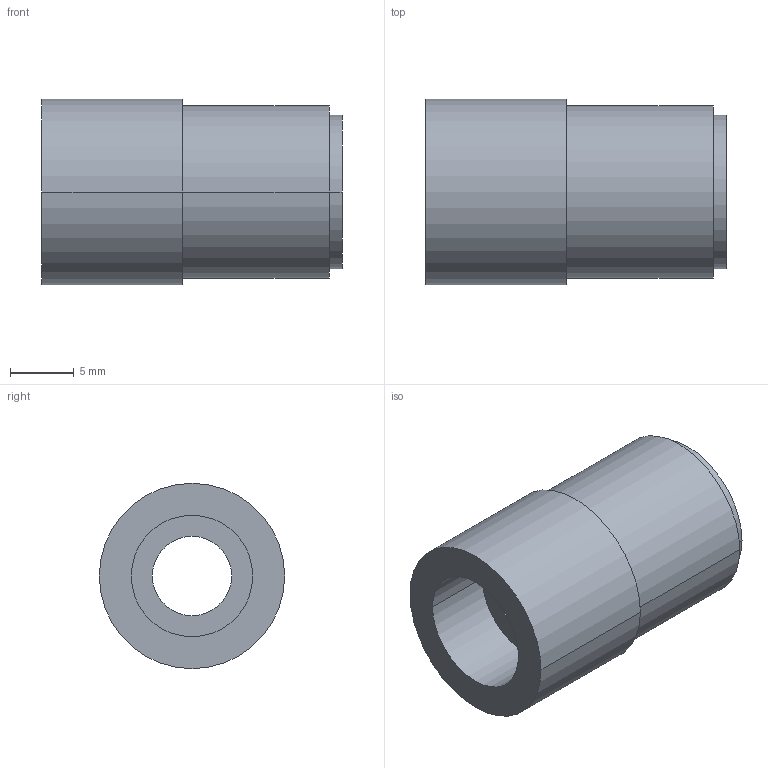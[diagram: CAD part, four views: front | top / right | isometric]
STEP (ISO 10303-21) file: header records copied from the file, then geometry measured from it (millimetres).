
FILE_DESCRIPTION(('Creo Elements/Direct Modeling STEP Export'),'2;1');
FILE_NAME('H06-0036-CL907_G11-09.stp','2012-02-15T14:43:50',(''),(''),'Creo Elements/Direct Modeling STEP processor for AP214 (Solid Model)','Creo Elements/Direct Modeling 18.0B 02-Dec-2011 (C) Parametric Technology GmbH','');
FILE_SCHEMA(('AUTOMOTIVE_DESIGN { 1 0 10303 214 1 1 1 1 }'));
Length unit declared in the file: millimetre
Products named in the file (3): G11-09A; G13-09B; G11-09
Assembly tree (2 placements, depth 2):
  G11-09
    G13-09B
    G11-09A
Bounding box: 23.5 x 14.5 x 14.5 mm (x, y, z)
Volume: 2640.7 mm3; surface area: 2904 mm2
Topology: 2 solids, 2 shells, 20 faces, 40 edges, 26 vertices
Faces by surface type: cylinder 12, plane 6, torus 2
Entity records: 554 total; most frequent: DIRECTION 88, ORIENTED_EDGE 80, CARTESIAN_POINT 76, EDGE_CURVE 40, AXIS2_PLACEMENT_3D 38, VERTEX_POINT 26, EDGE_LOOP 26, FACE_OUTER_BOUND 20
